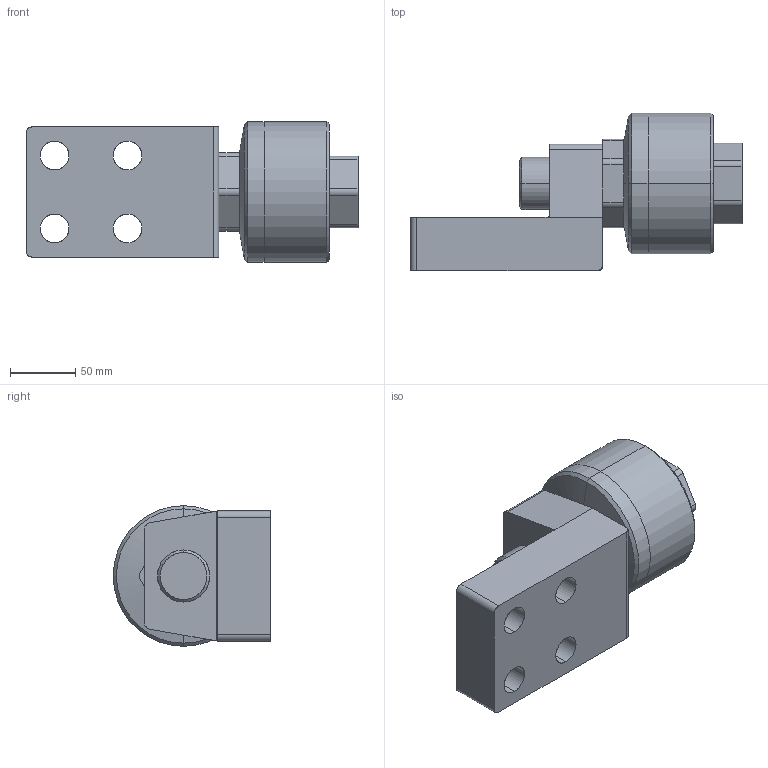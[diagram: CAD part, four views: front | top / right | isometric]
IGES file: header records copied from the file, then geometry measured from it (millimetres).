
Start section: SolidWorks IGES file using analytic representation for surfaces
Global section: file name: C:\Users\Toshiba\Desktop\FCM40-1.5-L.IGS; native system: SolidWorks 2014; preprocessor: SolidWorks 2014; author: Toshiba; date: 160414.100147; units: millimetre
Bounding box: 255 x 121 x 108 mm (x, y, z)
Surface area: 133018.6 mm2 (no closed solid volume)
Topology: 0 solids, 0 shells, 77 faces, 1330 edges, 1330 vertices
Faces by surface type: revolution 44, bspline 33
